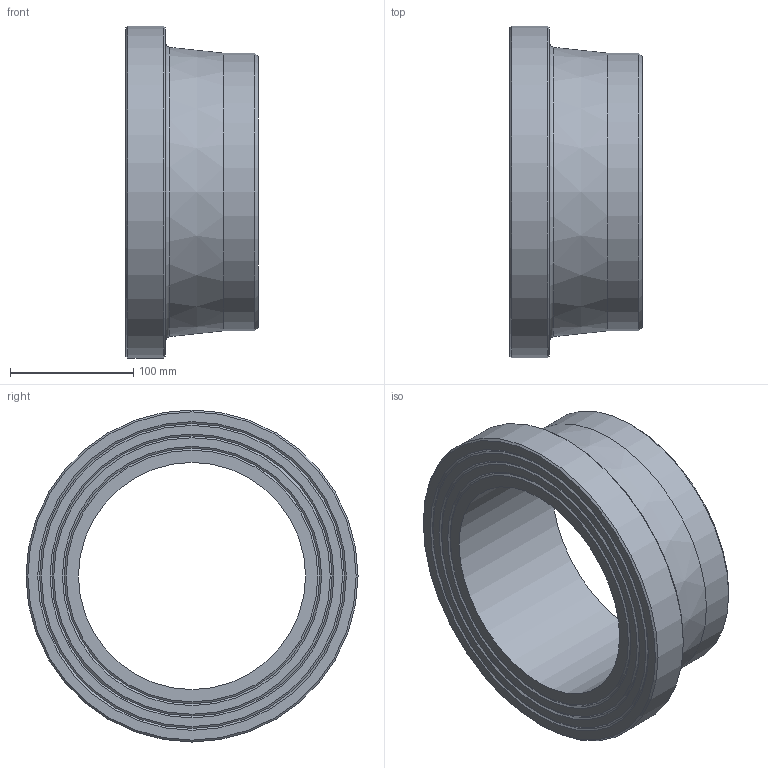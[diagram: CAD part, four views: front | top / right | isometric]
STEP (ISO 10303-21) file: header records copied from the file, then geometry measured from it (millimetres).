
FILE_DESCRIPTION(/* description */ ('Unknown'),/* implementation_level */ '2;1');
FILE_NAME(/* name */ 'CCP225C',/* time_stamp */ '2022-04-04T15:04:04+02:00',/* author */ ('Unknown'),/* organization */ ('Unknown'),/* preprocessor_version */ 'ST-DEVELOPER v18.1',/* originating_system */ 'Solid Edge',/* authorisation */ 'Unknown');
FILE_SCHEMA (('AUTOMOTIVE_DESIGN {1 0 10303 214 3 1 1}'));
Length unit declared in the file: millimetre
Products named in the file (1): CCP225C
Bounding box: 107 x 269 x 269 mm (x, y, z)
Volume: 2034164 mm3; surface area: 197736.7 mm2
Topology: 1 solids, 1 shells, 20 faces, 35 edges, 21 vertices
Faces by surface type: cone 10, plane 6, cylinder 3, torus 1
Full cylindrical faces by diameter (mm): 184 x1, 225 x1, 269 x1
Entity records: 438 total; most frequent: DIRECTION 82, CARTESIAN_POINT 61, AXIS2_PLACEMENT_3D 41, ORIENTED_EDGE 40, EDGE_LOOP 40, FACE_BOUND 40, EDGE_CURVE 20, VERTEX_POINT 20
